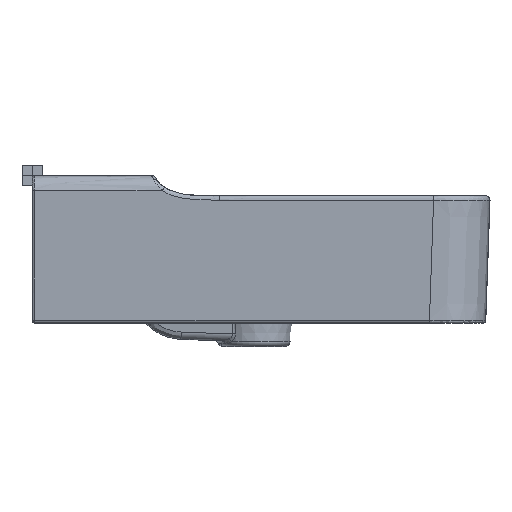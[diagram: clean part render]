
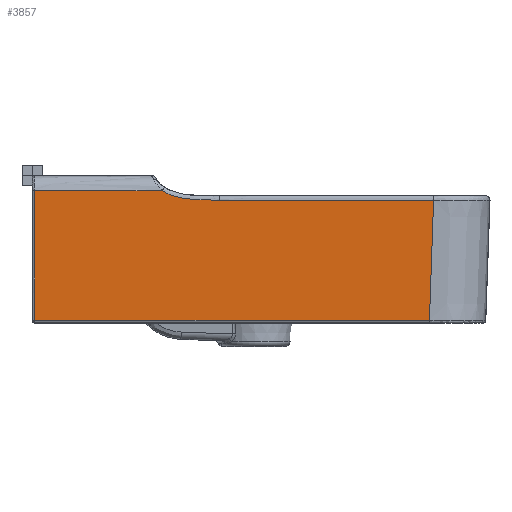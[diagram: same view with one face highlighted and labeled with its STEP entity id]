
A CAD part, left-side view. The second image highlights one B-rep face of the part: STEP entity #3857.
In plain terms, the highlighted planar face has unit normal (-0.999, 0, -0.035).
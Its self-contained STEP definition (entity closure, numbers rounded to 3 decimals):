
#330=DIRECTION('',(-0.035,0.,0.999));
#331=VECTOR('',#330,127.482);
#332=CARTESIAN_POINT('',(-295.551,-2.5,-142.105));
#333=LINE('',#332,#331);
#334=CARTESIAN_POINT('',(-300.,-127.698,
-14.7));
#335=CARTESIAN_POINT('',(-300.,-85.965,
-14.7));
#336=CARTESIAN_POINT('',(-300.,-44.233,
-14.7));
#337=CARTESIAN_POINT('',(-300.,-2.5,-14.7));
#339=CARTESIAN_POINT('',(-299.671,-183.975,
-24.116));
#340=CARTESIAN_POINT('',(-299.671,-183.261,
-24.116));
#341=CARTESIAN_POINT('',(-299.671,-181.897,
-24.116));
#342=CARTESIAN_POINT('',(-299.671,-180.096,
-24.116));
#343=CARTESIAN_POINT('',(-299.671,-178.378,
-24.114));
#344=CARTESIAN_POINT('',(-299.671,-176.602,
-24.109));
#345=CARTESIAN_POINT('',(-299.672,-174.605,
-24.098));
#346=CARTESIAN_POINT('',(-299.673,-172.424,
-24.075));
#347=CARTESIAN_POINT('',(-299.674,-170.05,
-24.034));
#348=CARTESIAN_POINT('',(-299.676,-167.584,
-23.971));
#349=CARTESIAN_POINT('',(-299.679,-165.128,
-23.882));
#350=CARTESIAN_POINT('',(-299.683,-162.663,
-23.764));
#351=CARTESIAN_POINT('',(-299.689,-160.134,
-23.608));
#352=CARTESIAN_POINT('',(-299.696,-157.529,
-23.405));
#353=CARTESIAN_POINT('',(-299.705,-154.872,
-23.146));
#354=CARTESIAN_POINT('',(-299.716,-152.195,
-22.826));
#355=CARTESIAN_POINT('',(-299.73,-149.527,
-22.437));
#356=CARTESIAN_POINT('',(-299.746,-146.895,
-21.975));
#357=CARTESIAN_POINT('',(-299.765,-144.322,
-21.438));
#358=CARTESIAN_POINT('',(-299.786,-141.826,
-20.824));
#359=CARTESIAN_POINT('',(-299.811,-139.394,
-20.123));
#360=CARTESIAN_POINT('',(-299.839,-136.997,
-19.32));
#361=CARTESIAN_POINT('',(-299.871,-134.635,
-18.401));
#362=CARTESIAN_POINT('',(-299.907,-132.332,
-17.362));
#363=CARTESIAN_POINT('',(-299.948,-130.062,
-16.179));
#364=CARTESIAN_POINT('',(-299.982,-128.487,
-15.222));
#365=CARTESIAN_POINT('',(-300.,-127.698,
-14.7));
#367=CARTESIAN_POINT('',(-299.671,-183.975,
-24.116));
#368=CARTESIAN_POINT('',(-299.671,-189.152,
-24.116));
#369=CARTESIAN_POINT('',(-299.671,-199.166,
-24.116));
#370=CARTESIAN_POINT('',(-299.671,-213.116,
-24.116));
#371=CARTESIAN_POINT('',(-299.671,-226.147,
-24.116));
#372=CARTESIAN_POINT('',(-299.671,-238.301,
-24.116));
#373=CARTESIAN_POINT('',(-299.671,-249.641,
-24.116));
#374=CARTESIAN_POINT('',(-299.671,-260.219,
-24.116));
#375=CARTESIAN_POINT('',(-299.671,-270.088,
-24.116));
#376=CARTESIAN_POINT('',(-299.671,-279.295,
-24.116));
#377=CARTESIAN_POINT('',(-299.671,-287.884,
-24.116));
#378=CARTESIAN_POINT('',(-299.671,-295.896,
-24.116));
#379=CARTESIAN_POINT('',(-299.671,-303.37,
-24.116));
#380=CARTESIAN_POINT('',(-299.671,-310.341,
-24.116));
#381=CARTESIAN_POINT('',(-299.671,-316.844,
-24.116));
#382=CARTESIAN_POINT('',(-299.671,-322.91,
-24.116));
#383=CARTESIAN_POINT('',(-299.671,-328.568,
-24.116));
#384=CARTESIAN_POINT('',(-299.671,-333.841,
-24.116));
#385=CARTESIAN_POINT('',(-299.671,-338.755,
-24.116));
#386=CARTESIAN_POINT('',(-299.671,-343.339,
-24.116));
#387=CARTESIAN_POINT('',(-299.671,-347.625,
-24.116));
#388=CARTESIAN_POINT('',(-299.671,-351.623,
-24.116));
#389=CARTESIAN_POINT('',(-299.671,-355.327,
-24.116));
#390=CARTESIAN_POINT('',(-299.671,-358.726,
-24.116));
#391=CARTESIAN_POINT('',(-299.671,-361.858,
-24.116));
#392=CARTESIAN_POINT('',(-299.671,-364.801,
-24.116));
#393=CARTESIAN_POINT('',(-299.671,-367.64,
-24.116));
#394=CARTESIAN_POINT('',(-299.671,-370.458,
-24.116));
#395=CARTESIAN_POINT('',(-299.671,-373.287,
-24.116));
#396=CARTESIAN_POINT('',(-299.671,-376.121,
-24.116));
#397=CARTESIAN_POINT('',(-299.671,-378.945,
-24.116));
#398=CARTESIAN_POINT('',(-299.671,-381.758,
-24.116));
#399=CARTESIAN_POINT('',(-299.671,-384.622,
-24.116));
#400=CARTESIAN_POINT('',(-299.671,-387.673,
-24.115));
#401=CARTESIAN_POINT('',(-299.671,-390.968,
-24.114));
#402=CARTESIAN_POINT('',(-299.671,-393.367,-24.114));
#403=CARTESIAN_POINT('',(-299.671,-394.614,
-24.113));
#405=CARTESIAN_POINT('',(-299.671,-394.614,
-24.113));
#406=CARTESIAN_POINT('',(-298.298,-393.246,
-63.444));
#407=CARTESIAN_POINT('',(-296.924,-391.878,
-102.774));
#408=CARTESIAN_POINT('',(-295.551,-390.511,
-142.105));
#410=DIRECTION('',(0.,1.,0.));
#411=VECTOR('',#410,388.011);
#412=CARTESIAN_POINT('',(-295.551,-390.511,
-142.105));
#413=LINE('',#412,#411);
#1376=CARTESIAN_POINT('',(-295.551,-390.511,
-142.105));
#1378=CARTESIAN_POINT('',(-299.671,-394.614,
-24.113));
#3331=VERTEX_POINT('',#1376);
#3337=CARTESIAN_POINT('',(-295.551,-2.5,-142.105));
#3339=VERTEX_POINT('',#3337);
#3340=CARTESIAN_POINT('',(-300.,-2.5,-14.7));
#3341=VERTEX_POINT('',#3340);
#3346=VERTEX_POINT('',#339);
#3347=VERTEX_POINT('',#365);
#3359=VERTEX_POINT('',#1378);
#3839=CARTESIAN_POINT('',(-297.463,-224.825,-87.35));
#3840=DIRECTION('',(-0.999,0.,-0.035));
#3841=DIRECTION('',(-0.035,0.,0.999));
#3842=AXIS2_PLACEMENT_3D('',#3839,#3840,#3841);
#3843=PLANE('',#3842);
#3845=ORIENTED_EDGE('',*,*,#3844,.T.);
#3847=ORIENTED_EDGE('',*,*,#3846,.F.);
#3849=ORIENTED_EDGE('',*,*,#3848,.F.);
#3851=ORIENTED_EDGE('',*,*,#3850,.T.);
#3853=ORIENTED_EDGE('',*,*,#3852,.T.);
#3854=ORIENTED_EDGE('',*,*,#3830,.T.);
#3855=EDGE_LOOP('',(#3845,#3847,#3849,#3851,#3853,#3854));
#3856=FACE_OUTER_BOUND('',#3855,.F.);
#3857=ADVANCED_FACE('',(#3856),#3843,.T.);
#338=B_SPLINE_CURVE_WITH_KNOTS('',3,(#334,#335,#336,#337),.UNSPECIFIED.,.F.,.F.,
(4,4),(0.,1.),.UNSPECIFIED.);
#366=B_SPLINE_CURVE_WITH_KNOTS('',3,(#339,#340,#341,#342,#343,#344,#345,#346,
#347,#348,#349,#350,#351,#352,#353,#354,#355,#356,#357,#358,#359,#360,#361,#362,
#363,#364,#365),.UNSPECIFIED.,.F.,.F.,(4,1,1,1,1,1,1,1,1,1,1,1,1,1,1,1,1,1,1,1,
1,1,1,1,4),(0.,0.042,0.083,0.125,0.167,
0.208,0.25,0.292,0.333,0.375,
0.417,0.458,0.5,0.542,0.583,
0.625,0.667,0.708,0.75,0.792,
0.833,0.875,0.917,0.958,1.),
.UNSPECIFIED.);
#404=B_SPLINE_CURVE_WITH_KNOTS('',3,(#367,#368,#369,#370,#371,#372,#373,#374,
#375,#376,#377,#378,#379,#380,#381,#382,#383,#384,#385,#386,#387,#388,#389,#390,
#391,#392,#393,#394,#395,#396,#397,#398,#399,#400,#401,#402,#403),.UNSPECIFIED.,
.F.,.F.,(4,1,1,1,1,1,1,1,1,1,1,1,1,1,1,1,1,1,1,1,1,1,1,1,1,1,1,1,1,1,1,1,1,1,4),
(0.,0.029,0.059,0.088,0.118,
0.147,0.176,0.206,0.235,
0.265,0.294,0.324,0.353,
0.382,0.412,0.441,0.471,0.5,
0.529,0.559,0.588,0.618,
0.647,0.676,0.706,0.735,
0.765,0.794,0.824,0.853,
0.882,0.912,0.941,0.971,1.),
.UNSPECIFIED.);
#409=B_SPLINE_CURVE_WITH_KNOTS('',3,(#405,#406,#407,#408),.UNSPECIFIED.,.F.,.F.,
(4,4),(0.,1.),.UNSPECIFIED.);
#3830=EDGE_CURVE('',#3331,#3339,#413,.T.);
#3844=EDGE_CURVE('',#3339,#3341,#333,.T.);
#3846=EDGE_CURVE('',#3347,#3341,#338,.T.);
#3848=EDGE_CURVE('',#3346,#3347,#366,.T.);
#3850=EDGE_CURVE('',#3346,#3359,#404,.T.);
#3852=EDGE_CURVE('',#3359,#3331,#409,.T.);
